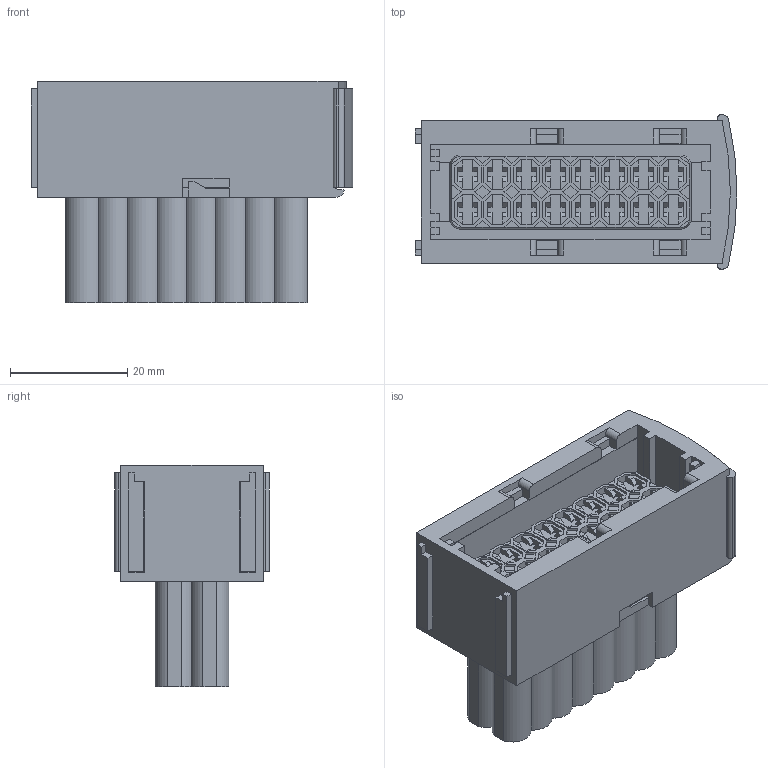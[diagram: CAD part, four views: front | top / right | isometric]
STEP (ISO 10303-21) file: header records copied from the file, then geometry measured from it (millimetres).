
FILE_DESCRIPTION((''),'2;1');
FILE_NAME('C-0967242-11-3-L','2007-09-02T',('workeradm'),('Tyco Electronics Corporation'),'PRO/ENGINEER BY PARAMETRIC TECHNOLOGY CORPORATION, 2005450','PRO/ENGINEER BY PARAMETRIC TECHNOLOGY CORPORATION, 2005450','');
FILE_SCHEMA(('CONFIG_CONTROL_DESIGN', 'GEOMETRIC_VALIDATION_PROPERTIES_MIM'));
Length unit declared in the file: millimetre
Products named in the file (1): C-0967242-11-3-L
Bounding box: 54.88 x 26.3 x 37.75 mm (x, y, z)
Volume: 20821 mm3; surface area: 17891.8 mm2
Topology: 1 solids, 1 shells, 810 faces, 2244 edges, 1470 vertices
Faces by surface type: plane 720, cylinder 86, cone 4
Entity records: 25541 total; most frequent: CARTESIAN_POINT 4525, ORIENTED_EDGE 4488, DIRECTION 4040, EDGE_CURVE 2244, VECTOR 2068, LINE 2068, VERTEX_POINT 1470, AXIS2_PLACEMENT_3D 986
